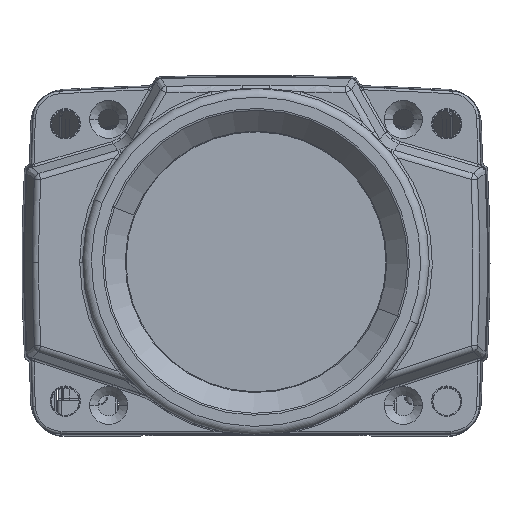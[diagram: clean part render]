
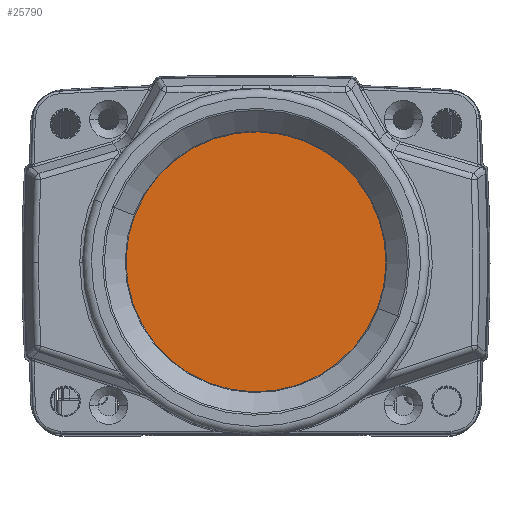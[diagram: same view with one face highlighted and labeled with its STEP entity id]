
A CAD part, top view. The second image highlights one B-rep face of the part: STEP entity #25790.
In plain terms, the highlighted planar face has unit normal (0, 0, 1).
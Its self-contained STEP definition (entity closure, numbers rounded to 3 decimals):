
#2403 = DIRECTION ( 'NONE',  ( 0., 0., 1. ) ) ;
#2739 = VERTEX_POINT ( 'NONE', #106808 ) ;
#5916 = AXIS2_PLACEMENT_3D ( 'NONE', #55094, #2403, #63978 ) ;
#19367 = PLANE ( 'NONE',  #89649 ) ;
#21325 = CARTESIAN_POINT ( 'NONE',  ( 0., 0., 88. ) ) ;
#25790 = ADVANCED_FACE ( 'NONE', ( #28165 ), #19367, .T. ) ;
#28165 = FACE_OUTER_BOUND ( 'NONE', #64554, .T. ) ;
#30216 = DIRECTION ( 'NONE',  ( 1., 0., 0. ) ) ;
#34568 = ORIENTED_EDGE ( 'NONE', *, *, #80980, .T. ) ;
#46353 = DIRECTION ( 'NONE',  ( 0., 0., 1. ) ) ;
#47743 = AXIS2_PLACEMENT_3D ( 'NONE', #21325, #83067, #30216 ) ;
#55094 = CARTESIAN_POINT ( 'NONE',  ( 0., 0., 88. ) ) ;
#63978 = DIRECTION ( 'NONE',  ( 1., 0., 0. ) ) ;
#64554 = EDGE_LOOP ( 'NONE', ( #34568, #100225 ) ) ;
#65779 = CARTESIAN_POINT ( 'NONE',  ( 17.05, 0., 88. ) ) ;
#78297 = CIRCLE ( 'NONE', #5916, 17.05 ) ;
#80980 = EDGE_CURVE ( 'NONE', #104267, #2739, #96035, .T. ) ;
#83067 = DIRECTION ( 'NONE',  ( 0., 0., 1. ) ) ;
#86317 = EDGE_CURVE ( 'NONE', #2739, #104267, #78297, .T. ) ;
#89649 = AXIS2_PLACEMENT_3D ( 'NONE', #99307, #46353, #108164 ) ;
#96035 = CIRCLE ( 'NONE', #47743, 17.05 ) ;
#99307 = CARTESIAN_POINT ( 'NONE',  ( 0., 0., 88. ) ) ;
#100225 = ORIENTED_EDGE ( 'NONE', *, *, #86317, .T. ) ;
#104267 = VERTEX_POINT ( 'NONE', #65779 ) ;
#106808 = CARTESIAN_POINT ( 'NONE',  ( -17.05, 0., 88. ) ) ;
#108164 = DIRECTION ( 'NONE',  ( 1., 0., 0. ) ) ;
